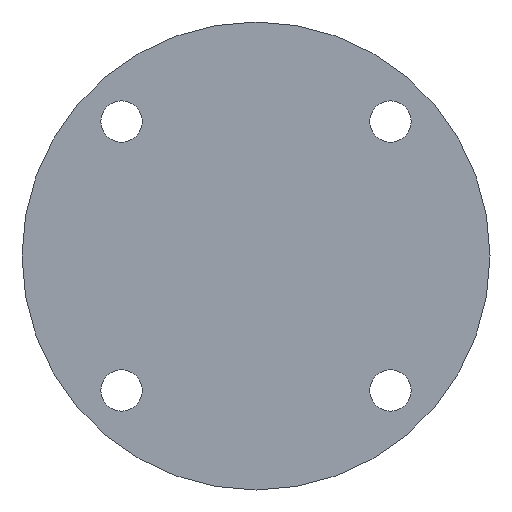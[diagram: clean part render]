
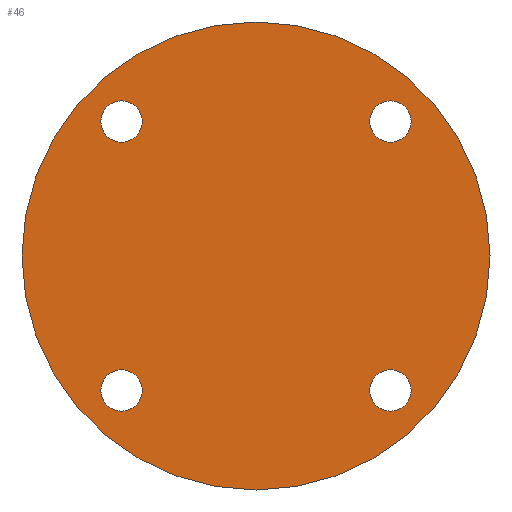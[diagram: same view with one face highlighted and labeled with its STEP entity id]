
A CAD part, front view. The second image highlights one B-rep face of the part: STEP entity #46.
In plain terms, the highlighted planar face has unit normal (0, -1, 0).
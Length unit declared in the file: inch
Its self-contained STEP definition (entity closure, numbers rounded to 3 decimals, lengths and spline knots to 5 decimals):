
#46 = ADVANCED_FACE ( 'NONE', ( #2875, #2893, #2887, #2894, #2858 ), #584, .F. ) ;
#165 = EDGE_CURVE ( 'NONE', #367, #396, #3034, .T. ) ;
#168 = EDGE_CURVE ( 'NONE', #317, #399, #3021, .T. ) ;
#172 = EDGE_CURVE ( 'NONE', #307, #380, #3023, .T. ) ;
#181 = EDGE_CURVE ( 'NONE', #396, #367, #2464, .T. ) ;
#209 = EDGE_CURVE ( 'NONE', #346, #360, #2491, .T. ) ;
#210 = EDGE_CURVE ( 'NONE', #410, #395, #2474, .T. ) ;
#307 = VERTEX_POINT ( 'NONE', #1617 ) ;
#317 = VERTEX_POINT ( 'NONE', #1584 ) ;
#346 = VERTEX_POINT ( 'NONE', #1634 ) ;
#360 = VERTEX_POINT ( 'NONE', #1641 ) ;
#367 = VERTEX_POINT ( 'NONE', #1635 ) ;
#380 = VERTEX_POINT ( 'NONE', #1648 ) ;
#395 = VERTEX_POINT ( 'NONE', #1686 ) ;
#396 = VERTEX_POINT ( 'NONE', #1688 ) ;
#399 = VERTEX_POINT ( 'NONE', #1632 ) ;
#410 = VERTEX_POINT ( 'NONE', #1661 ) ;
#584 = PLANE ( 'NONE',  #3135 ) ;
#590 = CARTESIAN_POINT ( 'NONE',  ( 0., 0., 0. ) ) ;
#593 = DIRECTION ( 'NONE',  ( 0., 0., 1. ) ) ;
#616 = DIRECTION ( 'NONE',  ( 0., 1., 0. ) ) ;
#967 = DIRECTION ( 'NONE',  ( 0., 0., 1. ) ) ;
#991 = DIRECTION ( 'NONE',  ( 0., 1., 0. ) ) ;
#996 = DIRECTION ( 'NONE',  ( 0., 0., 1. ) ) ;
#999 = CARTESIAN_POINT ( 'NONE',  ( -1.72393, 0., 1.72393 ) ) ;
#1000 = DIRECTION ( 'NONE',  ( 0., 1., 0. ) ) ;
#1006 = CARTESIAN_POINT ( 'NONE',  ( 0., 0., 0. ) ) ;
#1010 = CARTESIAN_POINT ( 'NONE',  ( 0., 0., 0. ) ) ;
#1012 = DIRECTION ( 'NONE',  ( 0., 0., 1. ) ) ;
#1015 = DIRECTION ( 'NONE',  ( 0., 1., 0. ) ) ;
#1020 = DIRECTION ( 'NONE',  ( 0., 0., 1. ) ) ;
#1049 = CARTESIAN_POINT ( 'NONE',  ( 1.72393, 0., 1.72393 ) ) ;
#1050 = DIRECTION ( 'NONE',  ( 0., 1., 0. ) ) ;
#1170 = DIRECTION ( 'NONE',  ( 0., 0., 1. ) ) ;
#1171 = DIRECTION ( 'NONE',  ( 0., 0., 1. ) ) ;
#1183 = DIRECTION ( 'NONE',  ( 0., 1., 0. ) ) ;
#1192 = DIRECTION ( 'NONE',  ( 0., 1., 0. ) ) ;
#1194 = CARTESIAN_POINT ( 'NONE',  ( 1.72393, 0., -1.72393 ) ) ;
#1205 = CARTESIAN_POINT ( 'NONE',  ( -1.72393, 0., -1.72393 ) ) ;
#1427 = AXIS2_PLACEMENT_3D ( 'NONE', #1826, #1806, #1829 ) ;
#1449 = AXIS2_PLACEMENT_3D ( 'NONE', #1840, #1828, #1827 ) ;
#1452 = AXIS2_PLACEMENT_3D ( 'NONE', #1770, #1784, #1771 ) ;
#1468 = AXIS2_PLACEMENT_3D ( 'NONE', #1805, #1841, #1819 ) ;
#1505 = AXIS2_PLACEMENT_3D ( 'NONE', #1010, #1015, #1012 ) ;
#1584 = CARTESIAN_POINT ( 'NONE',  ( -1.72393, 0., 1.98943 ) ) ;
#1617 = CARTESIAN_POINT ( 'NONE',  ( 1.72393, 0., 1.98943 ) ) ;
#1632 = CARTESIAN_POINT ( 'NONE',  ( -1.72393, 0., 1.45843 ) ) ;
#1634 = CARTESIAN_POINT ( 'NONE',  ( 1.72393, 0., -1.45843 ) ) ;
#1635 = CARTESIAN_POINT ( 'NONE',  ( 0., 0., 3. ) ) ;
#1641 = CARTESIAN_POINT ( 'NONE',  ( 1.72393, 0., -1.98943 ) ) ;
#1648 = CARTESIAN_POINT ( 'NONE',  ( 1.72393, 0., 1.45843 ) ) ;
#1661 = CARTESIAN_POINT ( 'NONE',  ( -1.72393, 0., -1.45843 ) ) ;
#1686 = CARTESIAN_POINT ( 'NONE',  ( -1.72393, 0., -1.98943 ) ) ;
#1688 = CARTESIAN_POINT ( 'NONE',  ( 0., 0., -3. ) ) ;
#1770 = CARTESIAN_POINT ( 'NONE',  ( 1.72393, 0., -1.72393 ) ) ;
#1771 = DIRECTION ( 'NONE',  ( 0., 0., 1. ) ) ;
#1784 = DIRECTION ( 'NONE',  ( 0., 1., 0. ) ) ;
#1805 = CARTESIAN_POINT ( 'NONE',  ( -1.72393, 0., -1.72393 ) ) ;
#1806 = DIRECTION ( 'NONE',  ( 0., 1., 0. ) ) ;
#1819 = DIRECTION ( 'NONE',  ( 0., 0., 1. ) ) ;
#1826 = CARTESIAN_POINT ( 'NONE',  ( -1.72393, 0., 1.72393 ) ) ;
#1827 = DIRECTION ( 'NONE',  ( 0., 0., 1. ) ) ;
#1828 = DIRECTION ( 'NONE',  ( 0., 1., 0. ) ) ;
#1829 = DIRECTION ( 'NONE',  ( 0., 0., 1. ) ) ;
#1840 = CARTESIAN_POINT ( 'NONE',  ( 1.72393, 0., 1.72393 ) ) ;
#1841 = DIRECTION ( 'NONE',  ( 0., 1., 0. ) ) ;
#2060 = EDGE_CURVE ( 'NONE', #360, #346, #3324, .T. ) ;
#2076 = EDGE_CURVE ( 'NONE', #380, #307, #3319, .T. ) ;
#2078 = EDGE_CURVE ( 'NONE', #399, #317, #3310, .T. ) ;
#2079 = EDGE_CURVE ( 'NONE', #395, #410, #3312, .T. ) ;
#2165 = EDGE_LOOP ( 'NONE', ( #2434, #2338 ) ) ;
#2214 = EDGE_LOOP ( 'NONE', ( #2342, #2364 ) ) ;
#2218 = EDGE_LOOP ( 'NONE', ( #2378, #2354 ) ) ;
#2223 = EDGE_LOOP ( 'NONE', ( #2420, #2438 ) ) ;
#2235 = EDGE_LOOP ( 'NONE', ( #2406, #2429 ) ) ;
#2338 = ORIENTED_EDGE ( 'NONE', *, *, #2076, .T. ) ;
#2342 = ORIENTED_EDGE ( 'NONE', *, *, #209, .T. ) ;
#2354 = ORIENTED_EDGE ( 'NONE', *, *, #2079, .T. ) ;
#2364 = ORIENTED_EDGE ( 'NONE', *, *, #2060, .T. ) ;
#2378 = ORIENTED_EDGE ( 'NONE', *, *, #210, .T. ) ;
#2406 = ORIENTED_EDGE ( 'NONE', *, *, #168, .T. ) ;
#2420 = ORIENTED_EDGE ( 'NONE', *, *, #181, .F. ) ;
#2429 = ORIENTED_EDGE ( 'NONE', *, *, #2078, .T. ) ;
#2434 = ORIENTED_EDGE ( 'NONE', *, *, #172, .T. ) ;
#2438 = ORIENTED_EDGE ( 'NONE', *, *, #165, .F. ) ;
#2464 = CIRCLE ( 'NONE', #1505, 3. ) ;
#2474 = CIRCLE ( 'NONE', #3063, 0.2655 ) ;
#2491 = CIRCLE ( 'NONE', #3057, 0.2655 ) ;
#2858 = FACE_OUTER_BOUND ( 'NONE', #2223, .T. ) ;
#2875 = FACE_BOUND ( 'NONE', #2165, .T. ) ;
#2887 = FACE_BOUND ( 'NONE', #2218, .T. ) ;
#2893 = FACE_BOUND ( 'NONE', #2214, .T. ) ;
#2894 = FACE_BOUND ( 'NONE', #2235, .T. ) ;
#3021 = CIRCLE ( 'NONE', #3145, 0.2655 ) ;
#3023 = CIRCLE ( 'NONE', #3151, 0.2655 ) ;
#3034 = CIRCLE ( 'NONE', #3139, 3. ) ;
#3057 = AXIS2_PLACEMENT_3D ( 'NONE', #1194, #1183, #1171 ) ;
#3063 = AXIS2_PLACEMENT_3D ( 'NONE', #1205, #1192, #1170 ) ;
#3135 = AXIS2_PLACEMENT_3D ( 'NONE', #590, #616, #593 ) ;
#3139 = AXIS2_PLACEMENT_3D ( 'NONE', #1006, #991, #996 ) ;
#3145 = AXIS2_PLACEMENT_3D ( 'NONE', #999, #1000, #967 ) ;
#3151 = AXIS2_PLACEMENT_3D ( 'NONE', #1049, #1050, #1020 ) ;
#3310 = CIRCLE ( 'NONE', #1427, 0.2655 ) ;
#3312 = CIRCLE ( 'NONE', #1468, 0.2655 ) ;
#3319 = CIRCLE ( 'NONE', #1449, 0.2655 ) ;
#3324 = CIRCLE ( 'NONE', #1452, 0.2655 ) ;
